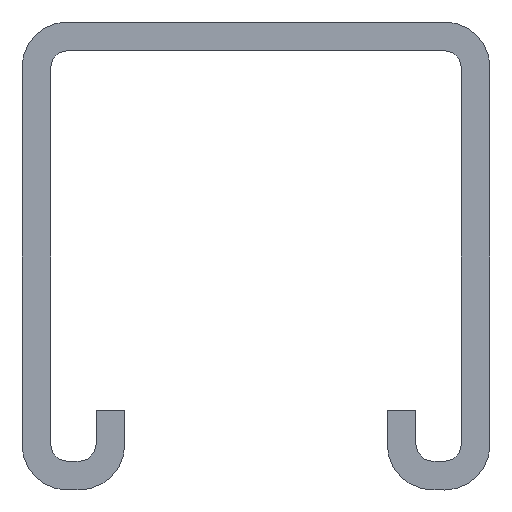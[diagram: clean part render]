
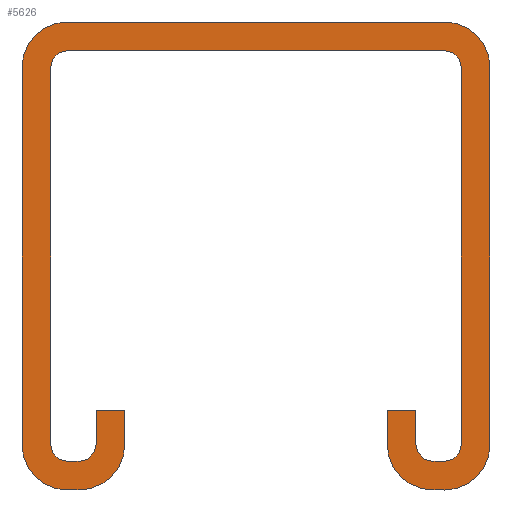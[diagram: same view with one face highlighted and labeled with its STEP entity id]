
A CAD part, front view. The second image highlights one B-rep face of the part: STEP entity #5626.
In plain terms, the highlighted planar face has unit normal (0, -1, 0).
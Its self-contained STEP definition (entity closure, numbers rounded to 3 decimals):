
#375=CIRCLE('',#6123,4.);
#377=CIRCLE('',#6127,4.);
#379=CIRCLE('',#6131,4.);
#381=CIRCLE('',#6135,4.);
#383=CIRCLE('',#6139,4.);
#385=CIRCLE('',#6145,1.5);
#387=CIRCLE('',#6149,1.5);
#389=CIRCLE('',#6153,1.5);
#391=CIRCLE('',#6157,1.5);
#393=CIRCLE('',#6161,1.5);
#395=CIRCLE('',#6165,1.5);
#397=CIRCLE('',#6171,4.);
#800=FACE_OUTER_BOUND('',#1190,.T.);
#1190=EDGE_LOOP('',(#5191,#5192,#5193,#5194,#5195,#5196,#5197,#5198,#5199,
#5200,#5201,#5202,#5203,#5204,#5205,#5206,#5207,#5208,#5209,#5210,#5211,
#5212,#5213,#5214,#5215,#5216,#5217,#5218));
#1671=LINE('',#9229,#2211);
#1676=LINE('',#9243,#2216);
#1680=LINE('',#9255,#2220);
#1684=LINE('',#9267,#2224);
#1688=LINE('',#9279,#2228);
#1692=LINE('',#9291,#2232);
#1695=LINE('',#9297,#2235);
#1698=LINE('',#9303,#2238);
#1702=LINE('',#9315,#2242);
#1706=LINE('',#9327,#2246);
#1710=LINE('',#9339,#2250);
#1714=LINE('',#9351,#2254);
#1718=LINE('',#9363,#2258);
#1722=LINE('',#9375,#2262);
#1725=LINE('',#9381,#2265);
#1728=LINE('',#9387,#2268);
#2211=VECTOR('',#7619,10.);
#2216=VECTOR('',#7632,10.);
#2220=VECTOR('',#7644,10.);
#2224=VECTOR('',#7656,10.);
#2228=VECTOR('',#7668,10.);
#2232=VECTOR('',#7680,10.);
#2235=VECTOR('',#7685,10.);
#2238=VECTOR('',#7690,10.);
#2242=VECTOR('',#7702,10.);
#2246=VECTOR('',#7714,10.);
#2250=VECTOR('',#7726,10.);
#2254=VECTOR('',#7738,10.);
#2258=VECTOR('',#7750,10.);
#2262=VECTOR('',#7762,10.);
#2265=VECTOR('',#7767,10.);
#2268=VECTOR('',#7772,10.);
#2751=VERTEX_POINT('',#9227);
#2752=VERTEX_POINT('',#9228);
#2755=VERTEX_POINT('',#9236);
#2757=VERTEX_POINT('',#9242);
#2759=VERTEX_POINT('',#9248);
#2761=VERTEX_POINT('',#9254);
#2763=VERTEX_POINT('',#9260);
#2765=VERTEX_POINT('',#9266);
#2767=VERTEX_POINT('',#9272);
#2769=VERTEX_POINT('',#9278);
#2771=VERTEX_POINT('',#9284);
#2773=VERTEX_POINT('',#9290);
#2775=VERTEX_POINT('',#9296);
#2777=VERTEX_POINT('',#9302);
#2779=VERTEX_POINT('',#9308);
#2781=VERTEX_POINT('',#9314);
#2783=VERTEX_POINT('',#9320);
#2785=VERTEX_POINT('',#9326);
#2787=VERTEX_POINT('',#9332);
#2789=VERTEX_POINT('',#9338);
#2791=VERTEX_POINT('',#9344);
#2793=VERTEX_POINT('',#9350);
#2795=VERTEX_POINT('',#9356);
#2797=VERTEX_POINT('',#9362);
#2799=VERTEX_POINT('',#9368);
#2801=VERTEX_POINT('',#9374);
#2803=VERTEX_POINT('',#9380);
#2805=VERTEX_POINT('',#9386);
#3527=EDGE_CURVE('',#2751,#2752,#1671,.T.);
#3531=EDGE_CURVE('',#2755,#2752,#375,.T.);
#3534=EDGE_CURVE('',#2757,#2755,#1676,.T.);
#3537=EDGE_CURVE('',#2759,#2757,#377,.T.);
#3540=EDGE_CURVE('',#2761,#2759,#1680,.T.);
#3543=EDGE_CURVE('',#2763,#2761,#379,.T.);
#3546=EDGE_CURVE('',#2765,#2763,#1684,.T.);
#3549=EDGE_CURVE('',#2767,#2765,#381,.T.);
#3552=EDGE_CURVE('',#2767,#2769,#1688,.T.);
#3555=EDGE_CURVE('',#2771,#2769,#383,.T.);
#3558=EDGE_CURVE('',#2771,#2773,#1692,.T.);
#3561=EDGE_CURVE('',#2775,#2773,#1695,.T.);
#3564=EDGE_CURVE('',#2777,#2775,#1698,.T.);
#3567=EDGE_CURVE('',#2777,#2779,#385,.T.);
#3570=EDGE_CURVE('',#2781,#2779,#1702,.T.);
#3573=EDGE_CURVE('',#2781,#2783,#387,.T.);
#3576=EDGE_CURVE('',#2783,#2785,#1706,.T.);
#3579=EDGE_CURVE('',#2785,#2787,#389,.T.);
#3582=EDGE_CURVE('',#2787,#2789,#1710,.T.);
#3585=EDGE_CURVE('',#2789,#2791,#391,.T.);
#3588=EDGE_CURVE('',#2791,#2793,#1714,.T.);
#3591=EDGE_CURVE('',#2793,#2795,#393,.T.);
#3594=EDGE_CURVE('',#2797,#2795,#1718,.T.);
#3597=EDGE_CURVE('',#2797,#2799,#395,.T.);
#3600=EDGE_CURVE('',#2799,#2801,#1722,.T.);
#3603=EDGE_CURVE('',#2803,#2801,#1725,.T.);
#3606=EDGE_CURVE('',#2805,#2803,#1728,.T.);
#3609=EDGE_CURVE('',#2751,#2805,#397,.T.);
#5191=ORIENTED_EDGE('',*,*,#3609,.F.);
#5192=ORIENTED_EDGE('',*,*,#3527,.T.);
#5193=ORIENTED_EDGE('',*,*,#3531,.F.);
#5194=ORIENTED_EDGE('',*,*,#3534,.F.);
#5195=ORIENTED_EDGE('',*,*,#3537,.F.);
#5196=ORIENTED_EDGE('',*,*,#3540,.F.);
#5197=ORIENTED_EDGE('',*,*,#3543,.F.);
#5198=ORIENTED_EDGE('',*,*,#3546,.F.);
#5199=ORIENTED_EDGE('',*,*,#3549,.F.);
#5200=ORIENTED_EDGE('',*,*,#3552,.T.);
#5201=ORIENTED_EDGE('',*,*,#3555,.F.);
#5202=ORIENTED_EDGE('',*,*,#3558,.T.);
#5203=ORIENTED_EDGE('',*,*,#3561,.F.);
#5204=ORIENTED_EDGE('',*,*,#3564,.F.);
#5205=ORIENTED_EDGE('',*,*,#3567,.T.);
#5206=ORIENTED_EDGE('',*,*,#3570,.F.);
#5207=ORIENTED_EDGE('',*,*,#3573,.T.);
#5208=ORIENTED_EDGE('',*,*,#3576,.T.);
#5209=ORIENTED_EDGE('',*,*,#3579,.T.);
#5210=ORIENTED_EDGE('',*,*,#3582,.T.);
#5211=ORIENTED_EDGE('',*,*,#3585,.T.);
#5212=ORIENTED_EDGE('',*,*,#3588,.T.);
#5213=ORIENTED_EDGE('',*,*,#3591,.T.);
#5214=ORIENTED_EDGE('',*,*,#3594,.F.);
#5215=ORIENTED_EDGE('',*,*,#3597,.T.);
#5216=ORIENTED_EDGE('',*,*,#3600,.T.);
#5217=ORIENTED_EDGE('',*,*,#3603,.F.);
#5218=ORIENTED_EDGE('',*,*,#3606,.F.);
#5356=PLANE('',#6174);
#5626=ADVANCED_FACE('',(#800),#5356,.F.);
#6123=AXIS2_PLACEMENT_3D('',#9237,#7625,#7626);
#6127=AXIS2_PLACEMENT_3D('',#9249,#7637,#7638);
#6131=AXIS2_PLACEMENT_3D('',#9261,#7649,#7650);
#6135=AXIS2_PLACEMENT_3D('',#9273,#7661,#7662);
#6139=AXIS2_PLACEMENT_3D('',#9285,#7673,#7674);
#6145=AXIS2_PLACEMENT_3D('',#9309,#7695,#7696);
#6149=AXIS2_PLACEMENT_3D('',#9321,#7707,#7708);
#6153=AXIS2_PLACEMENT_3D('',#9333,#7719,#7720);
#6157=AXIS2_PLACEMENT_3D('',#9345,#7731,#7732);
#6161=AXIS2_PLACEMENT_3D('',#9357,#7743,#7744);
#6165=AXIS2_PLACEMENT_3D('',#9369,#7755,#7756);
#6171=AXIS2_PLACEMENT_3D('',#9392,#7777,#7778);
#6174=AXIS2_PLACEMENT_3D('',#9395,#7783,#7784);
#7619=DIRECTION('',(1.,0.,0.));
#7625=DIRECTION('center_axis',(0.,1.,0.));
#7626=DIRECTION('ref_axis',(1.,0.,0.));
#7632=DIRECTION('',(0.,0.,-1.));
#7637=DIRECTION('center_axis',(0.,1.,0.));
#7638=DIRECTION('ref_axis',(0.,0.,1.));
#7644=DIRECTION('',(1.,0.,0.));
#7649=DIRECTION('center_axis',(0.,1.,0.));
#7650=DIRECTION('ref_axis',(-1.,0.,0.));
#7656=DIRECTION('',(0.,0.,1.));
#7661=DIRECTION('center_axis',(0.,1.,0.));
#7662=DIRECTION('ref_axis',(0.,0.,-1.));
#7668=DIRECTION('',(1.,0.,0.));
#7673=DIRECTION('center_axis',(0.,1.,0.));
#7674=DIRECTION('ref_axis',(1.,0.,0.));
#7680=DIRECTION('',(0.,0.,1.));
#7685=DIRECTION('',(1.,0.,0.));
#7690=DIRECTION('',(0.,0.,1.));
#7695=DIRECTION('center_axis',(0.,1.,0.));
#7696=DIRECTION('ref_axis',(1.,0.,0.));
#7702=DIRECTION('',(1.,0.,0.));
#7707=DIRECTION('center_axis',(0.,1.,0.));
#7708=DIRECTION('ref_axis',(0.,0.,-1.));
#7714=DIRECTION('',(0.,0.,1.));
#7719=DIRECTION('center_axis',(0.,1.,0.));
#7720=DIRECTION('ref_axis',(-1.,0.,0.));
#7726=DIRECTION('',(1.,0.,0.));
#7731=DIRECTION('center_axis',(0.,1.,0.));
#7732=DIRECTION('ref_axis',(0.,0.,1.));
#7738=DIRECTION('',(0.,0.,-1.));
#7743=DIRECTION('center_axis',(0.,1.,0.));
#7744=DIRECTION('ref_axis',(1.,0.,0.));
#7750=DIRECTION('',(1.,0.,0.));
#7755=DIRECTION('center_axis',(0.,1.,0.));
#7756=DIRECTION('ref_axis',(0.,0.,-1.));
#7762=DIRECTION('',(0.,0.,1.));
#7767=DIRECTION('',(1.,0.,0.));
#7772=DIRECTION('',(0.,0.,1.));
#7777=DIRECTION('center_axis',(0.,1.,0.));
#7778=DIRECTION('ref_axis',(0.,0.,-1.));
#7783=DIRECTION('center_axis',(0.,1.,0.));
#7784=DIRECTION('ref_axis',(1.,0.,0.));
#9227=CARTESIAN_POINT('',(36.,0.,0.));
#9228=CARTESIAN_POINT('',(37.,0.,0.));
#9229=CARTESIAN_POINT('',(36.,0.,0.));
#9236=CARTESIAN_POINT('',(41.,0.,4.));
#9237=CARTESIAN_POINT('Origin',(37.,0.,4.));
#9242=CARTESIAN_POINT('',(41.,0.,37.));
#9243=CARTESIAN_POINT('',(41.,0.,37.));
#9248=CARTESIAN_POINT('',(37.,0.,41.));
#9249=CARTESIAN_POINT('Origin',(37.,0.,37.));
#9254=CARTESIAN_POINT('',(4.,0.,41.));
#9255=CARTESIAN_POINT('',(4.,0.,41.));
#9260=CARTESIAN_POINT('',(0.,0.,37.));
#9261=CARTESIAN_POINT('Origin',(4.,0.,37.));
#9266=CARTESIAN_POINT('',(0.,0.,4.));
#9267=CARTESIAN_POINT('',(0.,0.,4.));
#9272=CARTESIAN_POINT('',(4.,0.,0.));
#9273=CARTESIAN_POINT('Origin',(4.,0.,4.));
#9278=CARTESIAN_POINT('',(5.,0.,0.));
#9279=CARTESIAN_POINT('',(4.,0.,0.));
#9284=CARTESIAN_POINT('',(9.,0.,4.));
#9285=CARTESIAN_POINT('Origin',(5.,0.,4.));
#9290=CARTESIAN_POINT('',(9.,0.,7.));
#9291=CARTESIAN_POINT('',(9.,0.,4.));
#9296=CARTESIAN_POINT('',(6.5,0.,7.));
#9297=CARTESIAN_POINT('',(6.5,0.,7.));
#9302=CARTESIAN_POINT('',(6.5,0.,4.));
#9303=CARTESIAN_POINT('',(6.5,0.,4.));
#9308=CARTESIAN_POINT('',(5.,0.,2.5));
#9309=CARTESIAN_POINT('Origin',(5.,0.,4.));
#9314=CARTESIAN_POINT('',(4.,0.,2.5));
#9315=CARTESIAN_POINT('',(4.,0.,2.5));
#9320=CARTESIAN_POINT('',(2.5,0.,4.));
#9321=CARTESIAN_POINT('Origin',(4.,0.,4.));
#9326=CARTESIAN_POINT('',(2.5,0.,37.));
#9327=CARTESIAN_POINT('',(2.5,0.,4.));
#9332=CARTESIAN_POINT('',(4.,0.,38.5));
#9333=CARTESIAN_POINT('Origin',(4.,0.,37.));
#9338=CARTESIAN_POINT('',(37.,0.,38.5));
#9339=CARTESIAN_POINT('',(4.,0.,38.5));
#9344=CARTESIAN_POINT('',(38.5,0.,37.));
#9345=CARTESIAN_POINT('Origin',(37.,0.,37.));
#9350=CARTESIAN_POINT('',(38.5,0.,4.));
#9351=CARTESIAN_POINT('',(38.5,0.,37.));
#9356=CARTESIAN_POINT('',(37.,0.,2.5));
#9357=CARTESIAN_POINT('Origin',(37.,0.,4.));
#9362=CARTESIAN_POINT('',(36.,0.,2.5));
#9363=CARTESIAN_POINT('',(36.,0.,2.5));
#9368=CARTESIAN_POINT('',(34.5,0.,4.));
#9369=CARTESIAN_POINT('Origin',(36.,0.,4.));
#9374=CARTESIAN_POINT('',(34.5,0.,7.));
#9375=CARTESIAN_POINT('',(34.5,0.,4.));
#9380=CARTESIAN_POINT('',(32.,0.,7.));
#9381=CARTESIAN_POINT('',(32.,0.,7.));
#9386=CARTESIAN_POINT('',(32.,0.,4.));
#9387=CARTESIAN_POINT('',(32.,0.,4.));
#9392=CARTESIAN_POINT('Origin',(36.,0.,4.));
#9395=CARTESIAN_POINT('Origin',(20.5,0.,20.5));
